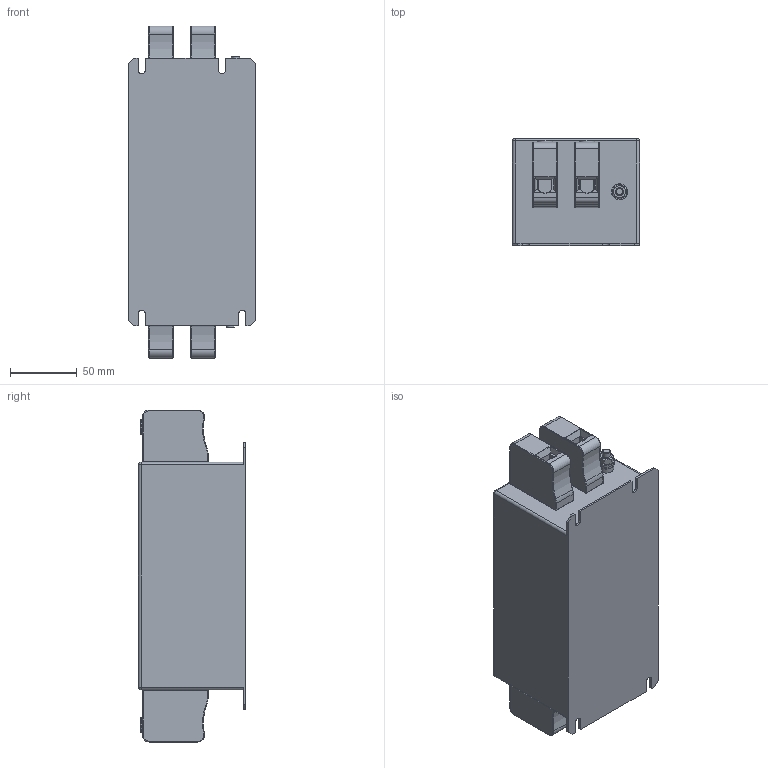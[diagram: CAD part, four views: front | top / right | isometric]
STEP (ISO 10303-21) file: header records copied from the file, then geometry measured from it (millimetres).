
FILE_DESCRIPTION((''),'2;1');
FILE_NAME('C:\Users\Samuel.Meier\Desktop\Harald\FN2200-50-34.stp','2012-08-24T13:57:58',('Samuel.Meier'),(''),'Autodesk Inventor 2010','Autodesk Inventor 2010','');
FILE_SCHEMA(('AUTOMOTIVE_DESIGN { 1 2 10303 214 0 1 1 1 }'));
Length unit declared in the file: millimetre
Products named in the file (1): Bauteil19
Bounding box: 95 x 80 x 248 mm (x, y, z)
Volume: 1423792.6 mm3; surface area: 104165.8 mm2
Topology: 1 solids, 1 shells, 446 faces, 1080 edges, 638 vertices
Faces by surface type: plane 180, cylinder 154, torus 44, bspline 40, sphere 20, cone 8
Full cylindrical faces by diameter (mm): 6 x4, 6.4 x2, 7 x4, 11.05 x2, 11.6 x4, 12 x2
Entity records: 13876 total; most frequent: CARTESIAN_POINT 3248, DIRECTION 2182, ORIENTED_EDGE 2028, EDGE_CURVE 1014, AXIS2_PLACEMENT_3D 833, VERTEX_POINT 634, VECTOR 516, LINE 516
